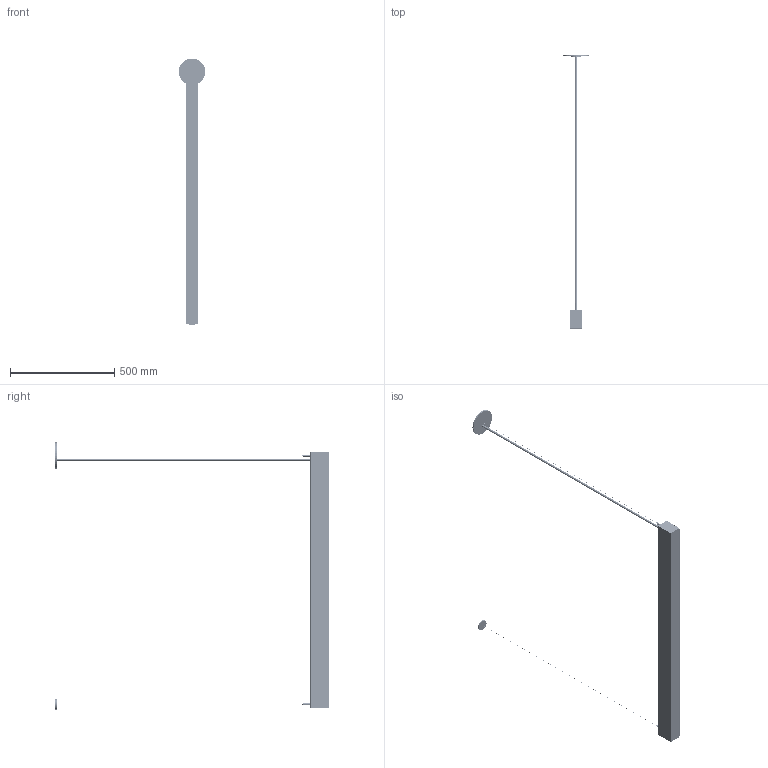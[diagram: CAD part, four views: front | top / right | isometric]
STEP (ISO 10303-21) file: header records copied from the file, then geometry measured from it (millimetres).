
FILE_DESCRIPTION (( 'STEP AP214' ), '1' );
FILE_NAME ('WG-S60.STEP', '2023-06-08T14:22:06', ( '' ), ( '' ), 'SwSTEP 2.0', 'SolidWorks 2021', '' );
FILE_SCHEMA (( 'AUTOMOTIVE_DESIGN' ));
Length unit declared in the file: inch
Products named in the file (32): 730-20376-300; 610-20447-RESISTOR_RESISTOR; 60 End Cap Bottom; WG-S60; 752-XXYYY-GT-60LDL; 320-10023-101_93878A106; 520-24006; Cable Gripper; 311-10002-101_311-10002-101; concealed-head stud_pmm_PreviewCfg; WG-GT3-60L_WG-GT3-DRV1-60L; 310-10020-101_310-10020-101; 5in Powered Suspension + Canopy; 710-10315-300_4ft; 610-20471-BOARD-12_BOARD-12"; 610-20471; Hi-Lume A-Series Driver CV240; 710-10349-300_11500-C90-L; 710-10047-400_4ft; 310-10014-200_310-10014-200; WG-GT3-60L_WG-GT3-60L; 320-10020-101_90272A531; 310-10029-101_92005A112; 610-20447-AVX-CONNECTOR_70-9296-001-003-006; 610-20447-LUXEON 3020_LUXEON 3020; LED Wire Connector; 610-20447-AL5802_AL5802; SM60 End Cap; 710-10350-300_752-47400-GT-60LDL; 2in Suspension Canopy
Assembly tree (250 placements, depth 4):
  WG-S60
    710-10315-300_4ft
    WG-GT3-60L_WG-GT3-DRV1-60L
      752-XXYYY-GT-60LDL
        710-10350-300_752-47400-GT-60LDL
        710-10349-300_11500-C90-L
        310-10029-101_92005A112  x2
      610-20471  x4
        610-20471-BOARD-12_BOARD-12"
        610-20447-AVX-CONNECTOR_70-9296-001-003-006
        610-20447-RESISTOR_RESISTOR
        610-20447-AL5802_AL5802
        610-20447-LUXEON 3020_LUXEON 3020
      310-10014-200_310-10014-200  x24
      310-10020-101_310-10020-101  x12
      311-10002-101_311-10002-101  x2
      520-24006  x2
      Hi-Lume A-Series Driver CV240
      LED Wire Connector  x6
      730-20376-300  x2
        730-20376-300
        concealed-head stud_pmm_PreviewCfg
    WG-GT3-60L_WG-GT3-60L
      752-XXYYY-GT-60LDL
        710-10350-300_752-47400-GT-60LDL
        710-10349-300_11500-C90-L
        310-10029-101_92005A112  x2
      610-20471
        610-20471-BOARD-12_BOARD-12"
        610-20447-AVX-CONNECTOR_70-9296-001-003-006  x4
        610-20447-RESISTOR_RESISTOR  x12
        610-20447-AL5802_AL5802  x6
        610-20447-LUXEON 3020_LUXEON 3020  x42
      610-20471
        610-20447-AVX-CONNECTOR_70-9296-001-003-006  x4
        610-20447-RESISTOR_RESISTOR  x12
        610-20447-AL5802_AL5802  x6
        610-20447-LUXEON 3020_LUXEON 3020  x42
      310-10014-200_310-10014-200  x11
      310-10020-101_310-10020-101  x10
      311-10002-101_311-10002-101  x2
      520-24006
      Hi-Lume A-Series Driver CV240
      LED Wire Connector  x2
      730-20376-300  x2
        730-20376-300
        concealed-head stud_pmm_PreviewCfg
    710-10047-400_4ft
    320-10023-101_93878A106  x8
    310-10020-101_310-10020-101  x8
    60 End Cap Bottom
    SM60 End Cap  x2
    Cable Gripper  x2
    320-10020-101_90272A531  x2
    2in Suspension Canopy
    5in Powered Suspension + Canopy
Bounding box: 127 x 1313.05 x 1282.7 mm (x, y, z)
Volume: 2489854.6 mm3; surface area: 1535339.4 mm2
Topology: 506 solids, 506 shells, 21605 faces, 55714 edges, 36150 vertices
Faces by surface type: plane 12495, cylinder 6706, bspline 1263, cone 753, torus 300, sphere 88
Entity records: 81328 total; most frequent: CARTESIAN_POINT 26332, ORIENTED_EDGE 11464, DIRECTION 10239, EDGE_CURVE 5732, LINE 3853, VECTOR 3853, VERTEX_POINT 3770, AXIS2_PLACEMENT_3D 3193
